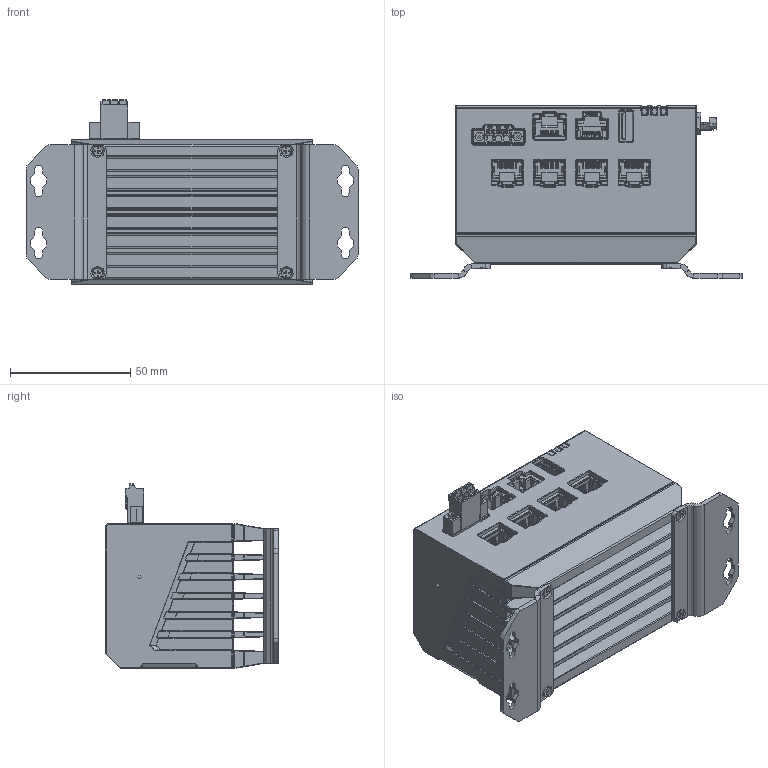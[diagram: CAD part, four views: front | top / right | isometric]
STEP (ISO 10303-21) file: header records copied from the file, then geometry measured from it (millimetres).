
FILE_DESCRIPTION((''),'2;1');
FILE_NAME('AWK_1165_T_WALLMOUNT_ASM','2024-04-01T16:13:06',('RositaCY_Yu'),('PTC'),'CREO PARAMETRIC BY PTC INC, 2023294','CREO PARAMETRIC BY PTC INC, 2023294','');
FILE_SCHEMA(('AUTOMOTIVE_DESIGN { 1 0 10303 214 1 1 1 1 }'));
Products named in the file (1): AWK_1165_T_WALLMOUNT_ASM
Bounding box: 138 x 71.8 x 76.6 mm (x, y, z)
Topology: 24 solids, 93 shells, 10739 faces, 30082 edges, 18998 vertices
Faces by surface type: plane 6430, cylinder 3077, bspline 387, cone 351, torus 265, sphere 212, extrusion 17
Full cylindrical faces by diameter (mm): 0.825 x1, 1.17 x2, 1.5 x3, 2.355 x2
Entity records: 401378 total; most frequent: CARTESIAN_POINT 98483, ORIENTED_EDGE 59261, DIRECTION 53891, EDGE_CURVE 29947, VECTOR 21537, LINE 21520, VERTEX_POINT 19021, AXIS2_PLACEMENT_3D 16177
